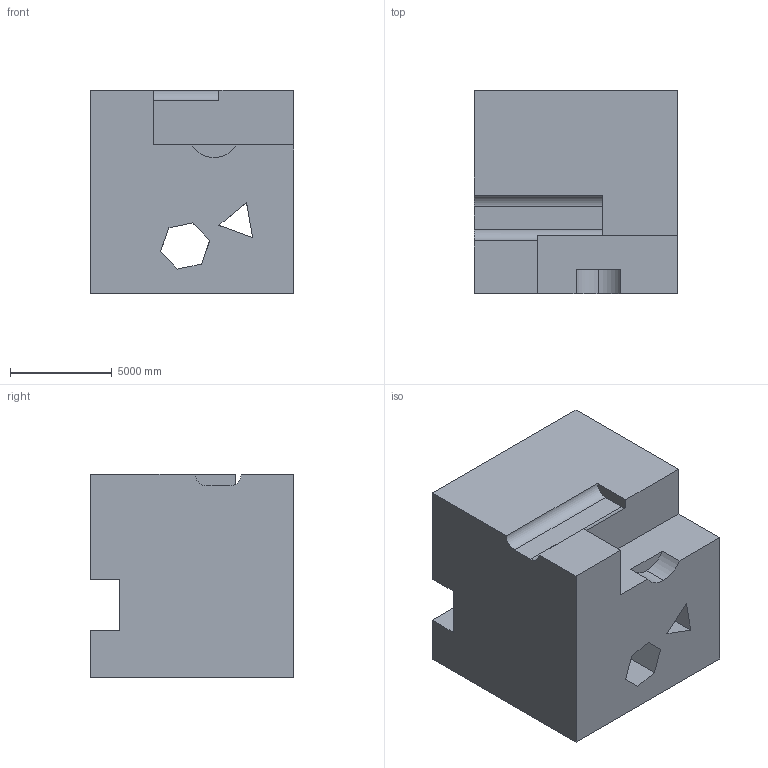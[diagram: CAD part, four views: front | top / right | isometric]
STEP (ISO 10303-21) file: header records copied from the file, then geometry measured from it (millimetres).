
FILE_DESCRIPTION (( 'STEP AP203' ), '1' );
FILE_NAME ('1643.STEP', '2022-08-19T11:18:07', ( 'user' ), ( '' ), 'SwSTEP 2.0', 'SolidWorks 2021', '' );
FILE_SCHEMA (( 'CONFIG_CONTROL_DESIGN' ));
Length unit declared in the file: centimetre
Products named in the file (1): 1643
Bounding box: 10000 x 10000 x 10000 mm (x, y, z)
Volume: 821600586506.7 mm3; surface area: 766731867 mm2
Topology: 1 solids, 1 shells, 46 faces, 144 edges, 96 vertices
Faces by surface type: plane 42, cylinder 4
Entity records: 1670 total; most frequent: ORIENTED_EDGE 288, CARTESIAN_POINT 287, DIRECTION 247, EDGE_CURVE 144, LINE 135, VECTOR 135, VERTEX_POINT 96, AXIS2_PLACEMENT_3D 56
